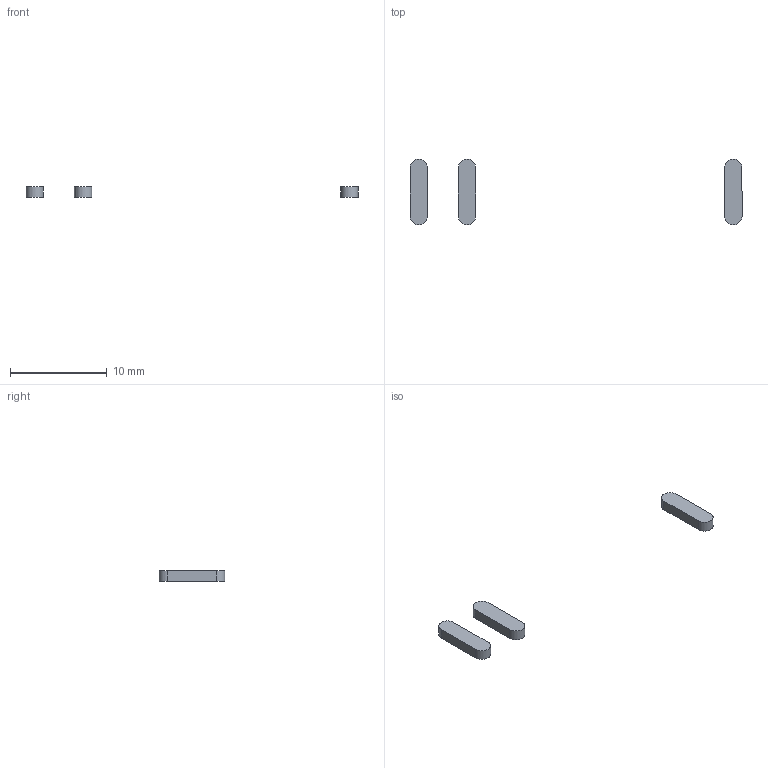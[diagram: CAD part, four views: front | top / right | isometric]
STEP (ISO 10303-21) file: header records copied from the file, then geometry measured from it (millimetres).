
FILE_DESCRIPTION (( 'STEP AP214' ), '1' );
FILE_NAME ('Buttons_Inlays.STEP', '2025-02-14T20:41:34', ( '' ), ( '' ), 'SwSTEP 2.0', 'SolidWorks 2019', '' );
FILE_SCHEMA (( 'AUTOMOTIVE_DESIGN' ));
Length unit declared in the file: millimetre
Products named in the file (1): Buttons_Inlays
Bounding box: 34.3 x 6.8 x 1.1 mm (x, y, z)
Volume: 38.1 mm3; surface area: 120.9 mm2
Topology: 3 solids, 3 shells, 18 faces, 36 edges, 24 vertices
Faces by surface type: plane 12, cylinder 6
Entity records: 524 total; most frequent: DIRECTION 86, CARTESIAN_POINT 79, ORIENTED_EDGE 72, EDGE_CURVE 36, AXIS2_PLACEMENT_3D 31, VERTEX_POINT 24, LINE 24, VECTOR 24
